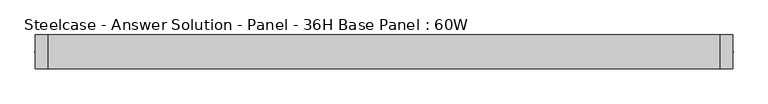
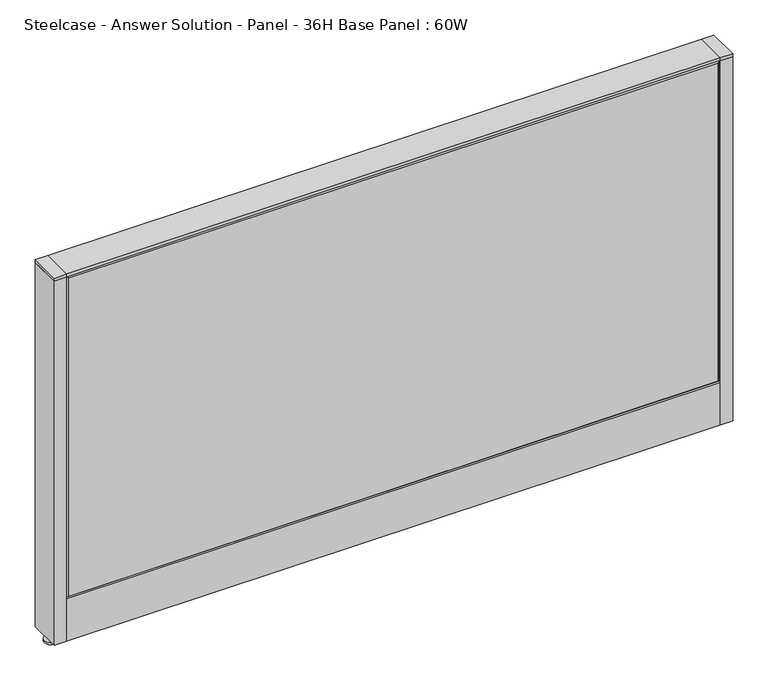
"""IFC4 building model written with IfcOpenShell, lengths in millimetres: furniture geometry, Steelcase - Answer Solution - Panel - 36H Base Panel : 60W."""

from ifc_helpers import new_model, si_unit, point, frame, frame_2d, origin, place, context, project, spatial, polyline, circle_curve, trimmed, segment, composite_curve, outline, extrude, faceted_brep, source, transform, mapped, element, save


def steelcase_answer_solution_panel_36h_base_panel_60w_5026dc19(model_context):
    return source(origin(), model_context, "Body", "SolidModel", [
        extrude(outline(composite_curve([segment(trimmed(circle_curve(frame_2d((776.224, 0.0320214)), 5.08), [point((781.304, 0.0320214))], [point((771.144, 0.0320214))], False, "CARTESIAN"), True, "CONTINUOUS"), segment(trimmed(circle_curve(frame_2d((776.224, 0.0320214)), 5.08), [point((771.144, 0.0320214))], [point((781.304, 0.0320214))], False, "CARTESIAN"), True, "CONTINUOUS")], self_intersect=False)), frame((0.0, 0.0, 5.0799671), z_axis=(0.0, 0.0, 1.0), x_axis=(1.0, 0.0, 0.0)), (0.0, 0.0, 1.0), 10.414),
        extrude(outline(composite_curve([segment(trimmed(circle_curve(frame_2d((776.224, 0.0320214)), 15.24), [point((791.464, 0.0320214))], [point((760.984, 0.0320214))], False, "CARTESIAN"), True, "CONTINUOUS"), segment(trimmed(circle_curve(frame_2d((776.224, 0.0320214)), 15.24), [point((760.984, 0.0320214))], [point((791.464, 0.0320214))], False, "CARTESIAN"), True, "CONTINUOUS")], self_intersect=False)), frame((0.0, 0.0, -3.29e-05), z_axis=(0.0, 0.0, 1.0), x_axis=(1.0, 0.0, 0.0)), (0.0, 0.0, 1.0), 5.08),
        extrude(outline(polyline([(790.575, 38.1320408), (790.575, -38.0679592), (762.0, -38.0679592), (762.0, 38.1320408), (790.575, 38.1320408)])), frame((0.0, 0.0, 913.4348), z_axis=(0.0, 0.0, 1.0), x_axis=(1.0, 0.0, 0.0)), (0.0, 0.0, 1.0), 7.3151671),
        extrude(outline(polyline([(790.575, 38.1320408), (790.575, -38.0679592), (762.0, -38.0679592), (762.0, 38.1320408), (790.575, 38.1320408)])), frame((0.0, 0.0, 15.4939671), z_axis=(0.0, 0.0, 1.0), x_axis=(1.0, 0.0, 0.0)), (0.0, 0.0, 1.0), 897.9408329),
        extrude(outline(composite_curve([segment(trimmed(circle_curve(frame_2d((-776.224, -0.0320214)), 5.08), [point((-781.304, -0.0320214))], [point((-771.144, -0.0320214))], False, "CARTESIAN"), True, "CONTINUOUS"), segment(trimmed(circle_curve(frame_2d((-776.224, -0.0320214)), 5.08), [point((-771.144, -0.0320214))], [point((-781.304, -0.0320214))], False, "CARTESIAN"), True, "CONTINUOUS")], self_intersect=False)), frame((0.0, 0.0, 5.0799671), z_axis=(0.0, 0.0, 1.0), x_axis=(1.0, 0.0, 0.0)), (0.0, 0.0, 1.0), 10.414),
        extrude(outline(composite_curve([segment(trimmed(circle_curve(frame_2d((-776.224, -0.0320214)), 15.24), [point((-791.464, -0.0320214))], [point((-760.984, -0.0320214))], False, "CARTESIAN"), True, "CONTINUOUS"), segment(trimmed(circle_curve(frame_2d((-776.224, -0.0320214)), 15.24), [point((-760.984, -0.0320214))], [point((-791.464, -0.0320214))], False, "CARTESIAN"), True, "CONTINUOUS")], self_intersect=False)), frame((0.0, 0.0, -3.29e-05), z_axis=(0.0, 0.0, 1.0), x_axis=(1.0, 0.0, 0.0)), (0.0, 0.0, 1.0), 5.08),
        extrude(outline(polyline([(-790.575, -38.1320408), (-790.575, 38.0679592), (-762.0, 38.0679592), (-762.0, -38.1320408), (-790.575, -38.1320408)])), frame((0.0, 0.0, 913.4348), z_axis=(0.0, 0.0, 1.0), x_axis=(1.0, 0.0, 0.0)), (0.0, 0.0, 1.0), 7.3151671),
        extrude(outline(polyline([(-790.575, -38.1320408), (-790.575, 38.0679592), (-762.0, 38.0679592), (-762.0, -38.1320408), (-790.575, -38.1320408)])), frame((0.0, 0.0, 15.4939671), z_axis=(0.0, 0.0, 1.0), x_axis=(1.0, 0.0, 0.0)), (0.0, 0.0, 1.0), 897.9408329),
        faceted_brep([(757.174, 38.1635011, 909.574), (757.174, 38.1635011, 125.476), (-757.174, 38.1635011, 125.476), (-757.174, 38.1635011, 909.574), (762.0, 33.3375011, 914.4), (-762.0, 33.3375011, 914.4), (-762.0, 33.3375011, 120.65), (762.0, 33.3375011, 120.65)], [[[0, 1, 2, 3]], [[4, 5, 6, 7]], [[4, 0, 3, 5]], [[5, 3, 2, 6]], [[6, 2, 1, 7]], [[7, 1, 0, 4]]]),
        faceted_brep([(757.174, -38.1635011, 909.574), (-757.174, -38.1635011, 909.574), (-757.174, -38.1635011, 125.476), (757.174, -38.1635011, 125.476), (762.0, -33.3375011, 914.4), (762.0, -33.3375011, 120.65), (-762.0, -33.3375011, 120.65), (-762.0, -33.3375011, 914.4)], [[[0, 1, 2, 3]], [[4, 5, 6, 7]], [[4, 7, 1, 0]], [[7, 6, 2, 1]], [[6, 5, 3, 2]], [[5, 4, 0, 3]]]),
        extrude(outline(polyline([(762.0, 38.1000194), (762.0, -38.1000194), (-762.0, -38.1000194), (-762.0, 38.1000194), (762.0, 38.1000194)])), frame((0.0, 0.0, 914.4), z_axis=(0.0, 0.0, 1.0), x_axis=(1.0, 0.0, 0.0)), (0.0, 0.0, 1.0), 6.35),
        extrude(outline(polyline([(37.3075215, 119.8575157), (25.4000011, 119.8575157), (25.4000011, 120.65), (38.1000194, 120.65), (38.1000194, 15.494), (37.3075215, 15.494), (37.3075215, 119.8575157)])), frame((-762.0, 0.0, 0.0), z_axis=(1.0, 0.0, 0.0), x_axis=(0.0, 1.0, 0.0)), (0.0, 0.0, 1.0), 1524.0),
        extrude(outline(polyline([(-37.3075215, 119.8575157), (-37.3075215, 15.494), (-38.1000194, 15.494), (-38.1000194, 120.65), (-25.4000011, 120.65), (-25.4000011, 119.8575157), (-37.3075215, 119.8575157)])), frame((-762.0, 0.0, 0.0), z_axis=(1.0, 0.0, 0.0), x_axis=(0.0, 1.0, 0.0)), (0.0, 0.0, 1.0), 1524.0),
    ])


if __name__ == "__main__":
    model = new_model("IFC4")
    model_context = context("Model", 3, world=origin())
    ifc_project = project(units=[si_unit("LENGTHUNIT", "METRE", prefix="MILLI")], contexts=[model_context])
    site = spatial("IfcSite", under=ifc_project)
    building = spatial("IfcBuilding", under=site)
    placement = place(None, origin())
    steelcase_answer_solution_panel_36h_base_panel_60w_shape = steelcase_answer_solution_panel_36h_base_panel_60w_5026dc19(model_context)
    element("IfcFurniture", 1, ObjectType="Steelcase - Answer Solution - Panel - 36H Base Panel : 60W", at=placement, inside=building, context=model_context, shape_type="MappedRepresentation", body=[
        mapped(steelcase_answer_solution_panel_36h_base_panel_60w_shape, transform((0.0, 0.0, 0.0), x_axis=(1.0, 0.0, 0.0), y_axis=(0.0, 1.0, 0.0), z_axis=(0.0, 0.0, 1.0))),
    ])
    save(model, "model.ifc")
